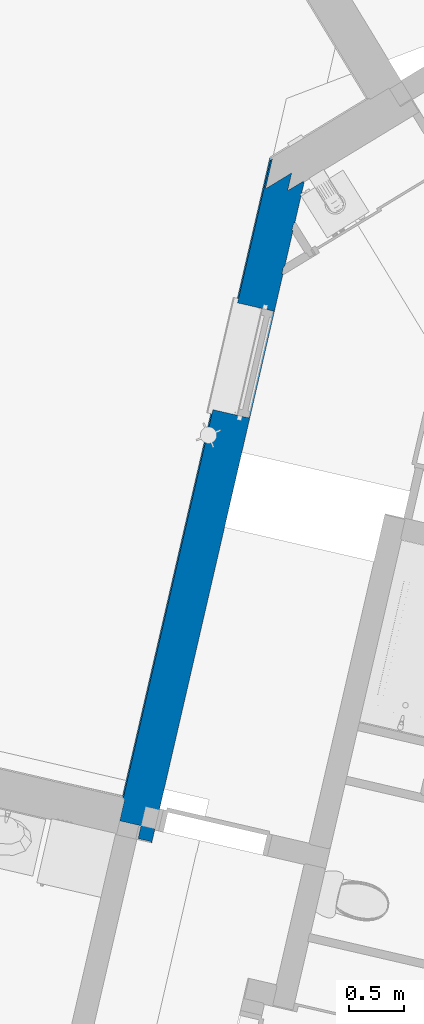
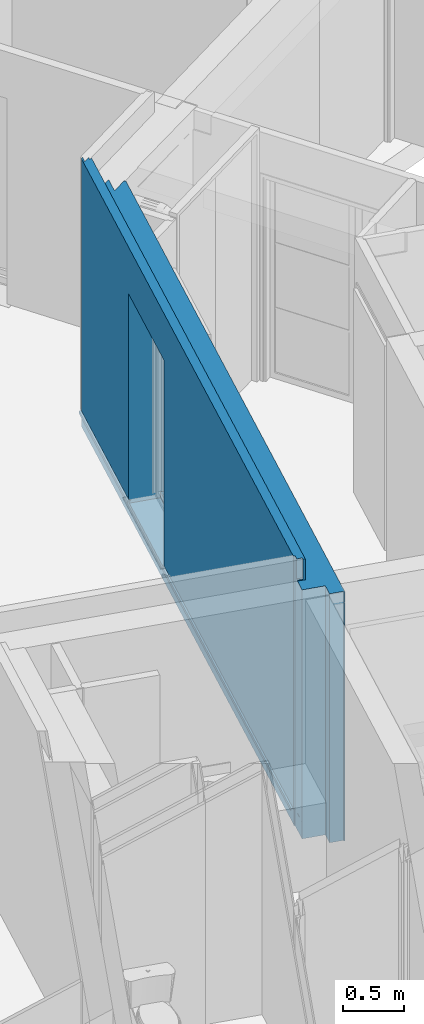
# One storey, part 29 of 119: 1 wall, 1 opening.
"""IFC2X3 building model written with IfcOpenShell, lengths in metres."""

from ifc_helpers import new_model, entity, si_unit, converted_unit, derived_unit, money_unit, direction, frame, origin_with_axes, place, context, subcontext, project, spatial, faceted_brep, material, material_list, type_object, element, save


model = new_model("IFC2X3")

# Units and contexts
model_context = context("Model", 3, precision=1e-05, world=origin_with_axes(), true_north=direction((0.0, 1.0)))
body_context = subcontext(model_context, "Body", "Model", "MODEL_VIEW")
ifc_project = project(units=[si_unit("LENGTHUNIT", "METRE"), si_unit("AREAUNIT", "SQUARE_METRE"), si_unit("VOLUMEUNIT", "CUBIC_METRE"), converted_unit("PLANEANGLEUNIT", "DEGREE", entity("IfcPlaneAngleMeasure", 0.0174532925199), si_unit("PLANEANGLEUNIT", "RADIAN"), dimensions=[0, 0, 0, 0, 0, 0, 0]), si_unit("SOLIDANGLEUNIT", "STERADIAN"), money_unit("EUR"), converted_unit("TIMEUNIT", "Year", entity("IfcTimeMeasure", 31556926.0), si_unit("TIMEUNIT", "SECOND"), dimensions=[0, 0, 1, 0, 0, 0, 0]), si_unit("MASSUNIT", "GRAM", prefix="KILO"), si_unit("THERMODYNAMICTEMPERATUREUNIT", "DEGREE_CELSIUS"), si_unit("LUMINOUSINTENSITYUNIT", "LUMEN"), si_unit("ENERGYUNIT", "JOULE", prefix="MEGA"), derived_unit("THERMALCONDUCTANCEUNIT", [(si_unit("POWERUNIT", "WATT"), 1), (si_unit("LENGTHUNIT", "METRE"), -1), (si_unit("THERMODYNAMICTEMPERATUREUNIT", "KELVIN"), -1)]), derived_unit("SPECIFICHEATCAPACITYUNIT", [(si_unit("ENERGYUNIT", "JOULE"), 1), (si_unit("MASSUNIT", "GRAM", prefix="KILO"), -1), (si_unit("THERMODYNAMICTEMPERATUREUNIT", "KELVIN"), -1)]), derived_unit("MASSDENSITYUNIT", [(si_unit("MASSUNIT", "GRAM", prefix="KILO"), 1), (si_unit("VOLUMEUNIT", "CUBIC_METRE"), -1)])], contexts=[model_context])

# Site, building, storey
site_placement = place(None, origin_with_axes())
site = spatial("IfcSite", under=ifc_project, at=site_placement, Name="Site", CompositionType="ELEMENT")
building_placement = place(site_placement, origin_with_axes())
building = spatial("IfcBuilding", under=site, at=building_placement, Name="Bâtiment", CompositionType="ELEMENT")
storey_placement = place(building_placement, origin_with_axes())
storey = spatial("IfcBuildingStorey", under=building, at=storey_placement, Name="Rez-de-chaussée", CompositionType="ELEMENT", Elevation=0.0)

# Wall, opening
ifc_material_1 = material(Name="Finition int - Plaque de plâtre")
ifc_material_2 = material(Name="Isolation - Polystyrène extrudé")
ifc_material_3 = material(Name="Bloc ELITHERM")
ifc_material_4 = material(Name="Isolation - Polystyrène expansé")
ifc_material_5 = material(Name="Mortier")
ifc_material_6 = material(Name="Béton cellulaire")
ifc_material_7 = material(Name="Etanchéité - Bitume")
ifc_material_8 = material(Name="Finition ext - Crépis")
ifc_material_9 = material(Name="Métal - Aluminium")
ifc_material_list = material_list([ifc_material_1, ifc_material_2, ifc_material_3, ifc_material_4, ifc_material_5, ifc_material_6, ifc_material_7, ifc_material_8, ifc_material_9])
wall_type = type_object("IfcWallType", Name="Mur ALKERN + planelle 21 TERRASSE RDC 356 x 2720", PredefinedType="USERDEFINED")
wall_placement = place(storey_placement, frame((-6.86373191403, 17.6508314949, 0.0), z_axis=(0.0, 0.0, 1.0), x_axis=(-0.22487619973, -0.974387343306, 0.0)))
wall = element("IfcWall", 1, at=wall_placement, inside=storey, type_object=wall_type, material=ifc_material_list, Name="Mue bloc ALKERN isolé", ObjectType="SOLIDWALL", context=body_context, shape_type="Brep", body=[
    faceted_brep([(0.151749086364, 0.359999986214, 0.176532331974), (0.151749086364, 0.359999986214, 0.207793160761), (0.151749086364, 0.359999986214, 2.50955001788), (6.34196474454, 0.359999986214, 2.50955002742), (6.34196474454, 0.359999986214, 2.41), (6.22196471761, 0.359999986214, 2.41), (6.22196471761, 0.359999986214, 2.397), (6.34196474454, 0.359999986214, 2.397), (6.34196474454, 0.359999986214, 0.0), (1.00660062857, 0.359999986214, 0.0), (1.00660062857, 0.359999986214, 0.133633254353), (1.00660062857, 0.359999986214, 0.160000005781), (1.00660062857, 0.359999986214, 0.169414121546), (1.00660062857, 0.359999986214, 0.176532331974), (1.00660062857, 0.359999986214, 0.207793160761), (1.00660062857, 0.359999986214, 2.5), (0.939547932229, 0.359999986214, 2.5), (0.939547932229, 0.359999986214, 0.207793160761), (0.939547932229, 0.359999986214, 0.176532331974), (0.939547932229, 0.359999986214, 0.169414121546), (0.939547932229, 0.359999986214, 0.160000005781), (0.939547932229, 0.359999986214, 0.133633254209), (0.939547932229, 0.359999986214, 0.0), (0.61142351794, 0.359999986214, 0.0), (0.61142351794, 0.359999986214, 0.133633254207), (0.61142351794, 0.359999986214, 0.160000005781), (0.61142351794, 0.359999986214, 0.169414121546), (0.61142351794, 0.359999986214, 0.176532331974), (0.61142351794, 0.359999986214, 0.207793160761), (0.61142351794, 0.359999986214, 2.5), (0.543541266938, 0.359999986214, 2.5), (0.543541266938, 0.359999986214, 0.207793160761), (0.543541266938, 0.359999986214, 0.176532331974), (0.543541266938, 0.359999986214, 0.169414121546), (0.543541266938, 0.359999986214, 0.160000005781), (0.543541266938, 0.359999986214, 0.133633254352), (0.543541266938, 0.359999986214, 0.0), (0.151749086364, 0.359999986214, 0.0), (0.151749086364, 0.359999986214, 0.133633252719), (0.151749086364, 0.359999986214, 0.160000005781), (0.151749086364, 0.359999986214, 0.169414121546), (2.36448848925, 0.359999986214, 2.25), (2.36448848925, 0.359999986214, 2.43), (1.36448848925, 0.359999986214, 2.43), (1.36448848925, 0.359999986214, 2.25), (1.36448848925, 0.359999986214, 0.2), (2.36448848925, 0.359999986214, 0.2), (0.161503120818, 0.350000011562, 0.176532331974), (0.161503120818, 0.350000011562, 0.207793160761), (0.161503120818, 0.350000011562, 2.50955001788), (6.34196474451, 0.350000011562, 2.50955002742), (6.34196474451, 0.350000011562, 2.41), (6.22196471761, 0.350000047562, 2.41), (6.22196471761, 0.350000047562, 2.397), (6.34196474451, 0.350000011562, 2.397), (6.33196465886, 0.350000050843, 2.397), (6.34196474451, 0.350000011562, 0.0), (1.01635466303, 0.350000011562, 0.0), (1.01635466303, 0.350000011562, 0.13363325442), (1.01635466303, 0.350000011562, 0.160000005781), (1.01635466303, 0.350000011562, 0.169414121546), (1.01635466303, 0.350000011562, 0.176532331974), (1.01635466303, 0.350000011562, 0.207793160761), (1.01635466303, 0.350000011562, 2.5), (0.949301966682, 0.350000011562, 2.5), (0.949301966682, 0.350000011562, 0.207793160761), (0.949301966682, 0.350000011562, 0.176532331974), (0.949301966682, 0.350000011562, 0.169414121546), (0.949301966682, 0.350000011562, 0.160000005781), (0.949301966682, 0.350000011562, 0.13363325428), (0.949301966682, 0.350000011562, 0.0), (0.601423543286, 0.350000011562, 0.0), (0.601423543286, 0.350000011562, 0.133633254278), (0.601423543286, 0.350000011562, 0.160000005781), (0.601423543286, 0.350000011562, 0.169414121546), (0.601423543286, 0.350000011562, 0.176532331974), (0.601423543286, 0.350000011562, 0.207793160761), (0.601423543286, 0.350000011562, 2.5), (0.533541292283, 0.350000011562, 2.5), (0.533541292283, 0.350000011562, 0.207793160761), (0.533541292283, 0.350000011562, 0.176532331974), (0.533541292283, 0.350000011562, 0.169414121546), (0.533541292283, 0.350000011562, 0.160000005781), (0.533541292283, 0.350000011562, 0.133633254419), (0.533541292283, 0.350000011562, 0.0), (0.161503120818, 0.350000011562, 0.0), (0.161503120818, 0.350000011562, 0.133633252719), (0.161503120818, 0.350000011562, 0.160000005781), (0.161503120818, 0.350000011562, 0.169414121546), (2.36448848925, 0.350000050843, 2.25), (2.36448848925, 0.350000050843, 2.43), (1.36448848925, 0.350000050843, 2.43), (1.36448848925, 0.350000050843, 2.25), (1.36448848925, 0.350000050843, 0.2), (2.36448848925, 0.350000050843, 0.2)], [[[0, 1, 2, 3, 4, 5, 6, 7, 8, 9, 10, 11, 12, 13, 14, 15, 16, 17, 18, 19, 20, 21, 22, 23, 24, 25, 26, 27, 28, 29, 30, 31, 32, 33, 34, 35, 36, 37, 38, 39, 40], [41, 42, 43, 44, 45, 46]], [[47, 48, 1, 0]], [[48, 49, 2, 1]], [[3, 2, 49, 50]], [[3, 50, 51, 4]], [[52, 5, 4, 51]], [[52, 53, 6, 5]], [[54, 7, 6, 53, 55]], [[56, 8, 7, 54]], [[56, 57, 9, 8]], [[57, 58, 10, 9]], [[10, 58, 59, 11]], [[60, 12, 11, 59]], [[60, 61, 13, 12]], [[14, 13, 61, 62]], [[14, 62, 63, 15]], [[15, 63, 64, 16]], [[16, 64, 65, 17]], [[65, 66, 18, 17]], [[19, 18, 66, 67]], [[19, 67, 68, 20]], [[69, 21, 20, 68]], [[22, 21, 69, 70]], [[23, 22, 70, 71]], [[23, 71, 72, 24]], [[25, 24, 72, 73]], [[73, 74, 26, 25]], [[26, 74, 75, 27]], [[76, 28, 27, 75]], [[29, 28, 76, 77]], [[30, 29, 77, 78]], [[31, 30, 78, 79]], [[31, 79, 80, 32]], [[81, 33, 32, 80]], [[34, 33, 81, 82]], [[82, 83, 35, 34]], [[84, 36, 35, 83]], [[85, 37, 36, 84]], [[38, 37, 85, 86]], [[87, 39, 38, 86]], [[39, 87, 88, 40]], [[0, 40, 88, 47]], [[42, 41, 89, 90]], [[43, 42, 90, 91]], [[44, 43, 91, 92]], [[44, 92, 93, 45]], [[45, 93, 94, 46]], [[89, 41, 46, 94]], [[57, 56, 54, 55, 53, 52, 51, 50, 49, 48, 47, 88, 87, 86, 85, 84, 83, 82, 81, 80, 79, 78, 77, 76, 75, 74, 73, 72, 71, 70, 69, 68, 67, 66, 65, 64, 63, 62, 61, 60, 59, 58], [90, 89, 94, 93, 92, 91]]]),
    faceted_brep([(1.36448848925, 0.248560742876, 0.2), (1.36448848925, 0.289560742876, 0.2), (1.36448848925, 0.350000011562, 0.2), (1.36448848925, 0.350000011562, 2.25), (1.36448848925, 0.248560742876, 2.25), (1.36448848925, 0.22999997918, 0.2), (1.36448848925, 0.22999997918, 0.14), (1.36448848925, 0.289560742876, 0.14), (2.36448848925, 0.289560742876, 0.2), (2.36448848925, 0.350000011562, 0.2), (6.33196475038, 0.350000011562, 0.207793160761), (6.33196475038, 0.350000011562, 0.176532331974), (6.33196475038, 0.350000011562, 0.169414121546), (6.33196475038, 0.350000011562, 0.160000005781), (6.33196475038, 0.350000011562, 0.133633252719), (6.33196475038, 0.350000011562, 0.0), (0.147533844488, 0.350000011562, 0.0), (0.147533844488, 0.350000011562, 0.133633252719), (0.147533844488, 0.350000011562, 0.160000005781), (0.147533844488, 0.350000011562, 0.169414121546), (0.147533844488, 0.350000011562, 0.176532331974), (0.147533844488, 0.350000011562, 0.207793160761), (0.147533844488, 0.350000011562, 2.50955001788), (6.33196475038, 0.350000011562, 2.50955001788), (2.36448848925, 0.350000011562, 2.25), (2.36448848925, 0.350000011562, 2.43), (1.36448848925, 0.350000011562, 2.43), (1.36448848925, 0.22999997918, 2.43), (1.36448848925, 0.22999997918, 2.25), (6.33196474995, 0.22999997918, 2.50955001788), (0.264582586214, 0.22999997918, 2.50955001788), (0.264582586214, 0.22999997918, 0.207793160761), (0.264582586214, 0.22999997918, 0.176532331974), (0.264582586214, 0.22999997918, 0.169414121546), (0.264582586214, 0.22999997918, 0.160000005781), (0.264582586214, 0.22999997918, 0.133633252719), (0.264582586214, 0.22999997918, 0.0), (6.33196474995, 0.22999997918, 0.0), (6.33196474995, 0.22999997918, 0.133633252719), (6.33196474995, 0.22999997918, 0.160000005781), (6.33196474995, 0.22999997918, 0.169414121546), (6.33196474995, 0.22999997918, 0.176532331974), (6.33196474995, 0.22999997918, 0.207793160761), (2.36448848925, 0.22999997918, 2.43), (2.36448848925, 0.22999997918, 2.25), (2.36448848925, 0.22999997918, 0.2), (2.36448848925, 0.22999997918, 0.14), (2.36448848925, 0.289560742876, 0.14), (2.36448848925, 0.248560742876, 0.2), (2.36448848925, 0.248560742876, 2.25)], [[[0, 1, 2, 3, 4]], [[1, 0, 5, 6, 7]], [[1, 8, 9, 2]], [[10, 11, 12, 13, 14, 15, 16, 17, 18, 19, 20, 21, 22, 23], [3, 2, 9, 24, 25, 26]], [[27, 28, 4, 3, 26]], [[5, 0, 4, 28]], [[29, 30, 31, 32, 33, 34, 35, 36, 37, 38, 39, 40, 41, 42], [6, 5, 28, 27, 43, 44, 45, 46]], [[6, 46, 47, 7]], [[8, 1, 7, 47]], [[8, 48, 49, 24, 9]], [[11, 10, 42, 41]], [[12, 11, 41, 40]], [[39, 13, 12, 40]], [[38, 14, 13, 39]], [[38, 37, 15, 14]], [[16, 15, 37, 36]], [[35, 17, 16, 36]], [[18, 17, 35, 34]], [[19, 18, 34, 33]], [[19, 33, 32, 20]], [[20, 32, 31, 21]], [[21, 31, 30, 22]], [[30, 29, 23, 22]], [[42, 10, 23, 29]], [[49, 44, 43, 25, 24]], [[25, 43, 27, 26]], [[48, 45, 44, 49]], [[48, 8, 47, 46, 45]]]),
    faceted_brep([(1.36448848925, 0.0310453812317, 0.2), (1.36448848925, 0.229999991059, 0.2), (1.36448848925, 0.229999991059, 2.25), (1.36448848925, 0.218560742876, 2.25), (1.36448848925, 0.03, 2.25), (1.36448848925, 0.03, 0.207793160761), (1.36448848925, 0.0310453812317, 0.207793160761), (1.36448848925, 0.229999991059, 0.14), (1.36448848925, 0.0310453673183, 0.169727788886), (1.36448848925, 0.0300000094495, 0.169414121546), (1.36448848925, 0.0300000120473, 0.160000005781), (1.36448848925, 0.03, 0.14), (6.21196471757, 0.229999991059, 0.133633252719), (6.21196471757, 0.229999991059, 0.0), (0.0969508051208, 0.229999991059, 0.0), (0.0969508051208, 0.229999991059, 0.133633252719), (0.0969508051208, 0.229999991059, 0.160000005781), (0.0969508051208, 0.229999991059, 0.169414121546), (0.0969508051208, 0.229999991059, 0.176532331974), (0.0969508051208, 0.229999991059, 0.207793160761), (0.0969508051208, 0.229999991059, 2.50955001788), (6.21196471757, 0.229999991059, 2.50955001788), (6.21196471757, 0.229999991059, 0.207793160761), (6.21196471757, 0.229999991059, 0.176532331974), (6.21196471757, 0.229999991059, 0.169414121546), (6.21196471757, 0.229999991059, 0.160000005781), (2.36448848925, 0.229999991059, 0.14), (2.36448848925, 0.229999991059, 0.2), (2.36448848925, 0.229999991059, 2.25), (2.36448848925, 0.229999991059, 2.43), (1.36448848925, 0.229999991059, 2.43), (1.36448848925, 0.218560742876, 2.43), (2.36448848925, 0.218560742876, 2.25), (2.36448848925, 0.03, 2.25), (6.21196471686, 0.03, 0.207793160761), (6.21196471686, 0.03, 2.50955001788), (0.292031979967, 0.03, 2.50955001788), (0.292031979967, 0.03, 0.207793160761), (2.36448848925, 0.03, 0.207793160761), (0.291012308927, 0.0310453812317, 0.207793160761), (0.291012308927, 0.0310453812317, 0.176532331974), (0.291012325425, 0.0310453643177, 0.169727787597), (0.292031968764, 0.0300000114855, 0.169414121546), (0.292031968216, 0.0300000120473, 0.160000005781), (0.292031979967, 0.03, 0.133633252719), (0.292031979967, 0.03, 0.0), (6.21196471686, 0.03, 0.0), (6.21196471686, 0.03, 0.133633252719), (6.21196471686, 0.0300000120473, 0.160000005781), (2.36448848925, 0.0300000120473, 0.160000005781), (2.36448848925, 0.03, 0.14), (0.225704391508, 0.0979999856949, 2.50955001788), (6.2119647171, 0.0979999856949, 2.50955001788), (6.21196471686, 0.0310453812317, 0.207793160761), (6.21196471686, 0.0310453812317, 0.176532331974), (6.21196471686, 0.0310453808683, 0.169727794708), (6.21196471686, 0.0300000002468, 0.169414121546), (2.36448848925, 0.0310453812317, 0.2), (2.36448848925, 0.030000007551, 0.169414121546), (2.36448848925, 0.0310453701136, 0.169727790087), (2.36448848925, 0.0310453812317, 0.207793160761), (2.36448848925, 0.218560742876, 2.43)], [[[0, 1, 2, 3, 4, 5, 6]], [[7, 1, 0, 8, 9, 10, 11]], [[12, 13, 14, 15, 16, 17, 18, 19, 20, 21, 22, 23, 24, 25], [26, 27, 28, 29, 30, 2, 1, 7]], [[30, 31, 3, 2]], [[32, 33, 4, 3]], [[34, 35, 36, 37, 5, 4, 33, 38]], [[37, 39, 6, 5]], [[8, 0, 6, 39, 40, 41]], [[9, 8, 41, 42]], [[10, 9, 42, 43]], [[11, 10, 43, 44, 45, 46, 47, 48, 49, 50]], [[26, 7, 11, 50]], [[47, 46, 13, 12]], [[14, 13, 46, 45]], [[45, 44, 15, 14]], [[43, 16, 15, 44]], [[42, 17, 16, 43]], [[40, 18, 17, 42, 41]], [[19, 18, 40, 39]], [[20, 19, 39, 37, 36, 51]], [[51, 52, 21, 20]], [[35, 34, 53, 22, 21, 52]], [[23, 22, 53, 54]], [[55, 56, 24, 23, 54]], [[48, 25, 24, 56]], [[47, 12, 25, 48]], [[57, 27, 26, 50, 49, 58, 59]], [[27, 57, 60, 38, 33, 32, 28]], [[28, 32, 61, 29]], [[29, 61, 31, 30]], [[3, 31, 61, 32]], [[36, 35, 52, 51]], [[53, 34, 38, 60]], [[58, 49, 48, 56]], [[57, 59, 55, 54, 53, 60]], [[59, 58, 56, 55]]]),
    faceted_brep([(6.07996476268, 0.0980000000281, 2.51999998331), (0.0413094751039, 0.0980000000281, 2.51999999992), (0.0413094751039, 0.0980000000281, 2.72), (6.07996476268, 0.0980000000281, 2.72), (6.07996476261, 0.0780000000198, 2.51999998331), (0.0608175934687, 0.0780000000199, 2.51999999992), (0.0608175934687, 0.0780000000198, 2.72), (6.07996476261, 0.0780000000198, 2.72)], [[[0, 1, 2, 3]], [[4, 5, 1, 0]], [[5, 6, 2, 1]], [[3, 2, 6, 7]], [[7, 4, 0, 3]], [[7, 6, 5, 4]]]),
    faceted_brep([(0.041309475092, 0.098, 2.50955), (0.041309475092, 0.098, 2.52), (6.07996476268, 0.098, 2.51999998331), (6.07996472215, 0.098, 2.50955002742), (0.107637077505, 0.03, 2.52), (0.107637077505, 0.03, 2.50955), (6.07996476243, 0.03, 2.51999998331), (6.0799647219, 0.03, 2.50955002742)], [[[0, 1, 2, 3]], [[4, 1, 0, 5]], [[1, 4, 6, 2]], [[7, 3, 2, 6]], [[5, 0, 3, 7]], [[4, 5, 7, 6]]]),
    faceted_brep([(6.0599647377, 0.03, 2.72), (6.05996473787, 0.0780000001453, 2.72), (0.0328789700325, 0.0780000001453, 2.72), (0.0796984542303, 0.03, 2.72), (6.05996473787, 0.0780000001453, 2.51999999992), (6.0599647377, 0.03, 2.51999999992), (0.0328789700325, 0.0780000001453, 2.51999999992), (0.0796984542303, 0.03, 2.51999999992)], [[[0, 1, 2, 3]], [[4, 1, 0, 5]], [[1, 4, 6, 2]], [[3, 2, 6, 7]], [[5, 0, 3, 7]], [[4, 5, 7, 6]]]),
    faceted_brep([(1.36448848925, 0.02, 0.160000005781), (1.36448848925, 0.0300000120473, 0.160000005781), (0.0126457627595, 0.0300000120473, 0.160000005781), (0.0223998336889, 0.02, 0.160000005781), (1.36448848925, 0.0300000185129, 0.14), (1.36448848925, 0.02, 0.14), (2.36448848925, 0.0300000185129, 0.14), (2.36448848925, 0.0300000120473, 0.160000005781), (6.01196474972, 0.0300000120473, 0.160000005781), (6.01196474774, 0.0300000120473, 0.133633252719), (6.01196473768, 0.0300000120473, 0.0), (5.99696474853, 0.0300000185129, 0.0), (5.99696474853, 0.0300000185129, 0.01), (0.0126457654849, 0.0300000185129, 0.01), (0.0126457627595, 0.0300000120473, 0.133633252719), (0.0223998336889, 0.02, 0.133633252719), (0.0223998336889, 0.02, 0.01), (5.99701909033, 0.02, 0.01), (5.99701909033, 0.02, 0.0), (6.01196473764, 0.02, 0.0), (6.0119647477, 0.02, 0.133633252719), (6.01196474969, 0.02, 0.160000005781), (2.36448848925, 0.02, 0.160000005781), (2.36448848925, 0.02, 0.14)], [[[0, 1, 2, 3]], [[4, 1, 0, 5]], [[6, 7, 8, 9, 10, 11, 12, 13, 14, 2, 1, 4]], [[3, 2, 14, 15]], [[5, 0, 3, 15, 16, 17, 18, 19, 20, 21, 22, 23]], [[6, 4, 5, 23]], [[22, 7, 6, 23]], [[7, 22, 21, 8]], [[9, 8, 21, 20]], [[9, 20, 19, 10]], [[11, 10, 19, 18]], [[11, 18, 17, 12]], [[13, 12, 17, 16]], [[16, 15, 14, 13]]]),
    faceted_brep([(1.36448848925, 0.0300000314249, 0.2), (1.36448848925, 0.0300000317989, 0.176532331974), (0.0126457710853, 0.0300000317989, 0.176532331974), (0.0126457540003, 0.0299999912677, 2.72), (6.01196473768, 0.0299999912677, 2.72), (6.01196473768, 0.0300000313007, 0.207793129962), (6.01196476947, 0.0300000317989, 0.176532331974), (2.36448848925, 0.0300000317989, 0.176532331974), (2.36448848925, 0.0300000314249, 0.2), (2.36448848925, 0.0299999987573, 2.25), (1.36448848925, 0.0299999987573, 2.25), (1.36448848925, 0.0150000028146, 0.2), (1.36448848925, 0.0150000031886, 0.176532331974), (1.36448848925, 0.0149999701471, 2.25), (0.0272768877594, 0.0150000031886, 0.176532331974), (0.0272768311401, 0.0150000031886, 2.72), (6.01196473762, 0.0150000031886, 2.72), (6.01196473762, 0.0150000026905, 0.207793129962), (6.01196476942, 0.0150000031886, 0.176532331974), (2.36448848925, 0.0150000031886, 0.176532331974), (2.36448848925, 0.0150000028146, 0.2), (2.36448848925, 0.0149999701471, 2.25)], [[[0, 1, 2, 3, 4, 5, 6, 7, 8, 9, 10]], [[11, 12, 1, 0, 10, 13]], [[1, 12, 14, 2]], [[3, 2, 14, 15]], [[4, 3, 15, 16]], [[16, 17, 5, 4]], [[17, 18, 6, 5]], [[19, 7, 6, 18]], [[8, 7, 19, 20, 21, 9]], [[9, 21, 13, 10]], [[12, 11, 13, 21, 20, 19, 18, 17, 16, 15, 14]]]),
    faceted_brep([(1.36448848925, 0.0300000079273, 0.2), (1.36448848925, 0.0310453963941, 0.2), (1.36448848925, 0.0310453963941, 0.207793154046), (1.36448848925, 0.03, 0.20779315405), (1.36448848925, 0.0310453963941, 0.169727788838), (1.36448848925, 0.0300000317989, 0.176532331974), (1.36448848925, 0.03, 0.170774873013), (1.36448848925, 0.00356073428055, 0.162931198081), (1.36448848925, 0.0035607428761, 0.14), (1.36448848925, 0.00479482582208, 0.14), (1.36448848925, 0.00479482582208, 0.161852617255), (1.36448848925, 0.0299999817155, 0.169414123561), (0.0130864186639, 0.0310453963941, 0.169727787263), (0.0130864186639, 0.0310453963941, 0.176532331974), (0.0130864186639, 0.0310453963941, 0.207793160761), (0.0141061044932, 0.03, 0.207793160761), (0.0141060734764, 0.0300000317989, 0.176532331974), (0.0141061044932, 0.03, 0.170774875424), (0.0175487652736, 0.0264705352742, 0.169727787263), (0.0171196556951, 0.0254132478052, 0.169414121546), (0.00824725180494, 0.0035607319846, 0.162931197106), (0.00322487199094, 0.0035607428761, 0.161852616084), (0.00322487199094, 0.0035607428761, 0.160000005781), (0.00322487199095, 0.0035607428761, 0.133633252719), (5.98675957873, 0.0035607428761, 0.133633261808), (5.98675957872, 0.0035607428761, 0.160000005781), (5.98675957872, 0.0035607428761, 0.161852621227), (5.99035487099, 0.00356074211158, 0.162931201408), (2.36448848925, 0.00356073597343, 0.1629311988), (2.36448848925, 0.0035607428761, 0.14), (2.36448848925, 0.00479482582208, 0.14), (2.36448848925, 0.00479482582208, 0.161852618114), (5.98675957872, 0.00479482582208, 0.161852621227), (5.98675957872, 0.00479482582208, 0.160000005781), (5.98675957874, 0.00479482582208, 0.133633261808), (0.00202114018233, 0.00479482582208, 0.133633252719), (0.00202114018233, 0.00479482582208, 0.160000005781), (0.00202114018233, 0.00479482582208, 0.161852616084), (0.0126457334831, 0.029999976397, 0.169414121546), (6.01196473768, 0.03, 0.169414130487), (6.01196473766, 0.0254132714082, 0.169414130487), (2.36448848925, 0.03, 0.170774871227), (6.01301011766, 0.0264705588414, 0.169727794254), (6.01301011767, 0.03, 0.170774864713), (2.36448848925, 0.0300000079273, 0.2), (2.36448848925, 0.0310453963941, 0.2), (2.36448848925, 0.0310453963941, 0.169727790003), (2.36448848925, 0.0299999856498, 0.169414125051), (2.36448848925, 0.0300000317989, 0.176532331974), (6.01301011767, 0.0310453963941, 0.169727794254), (6.01301011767, 0.0310453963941, 0.176532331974), (6.01301011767, 0.0300000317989, 0.176532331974), (2.36448848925, 0.03, 0.20779314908), (2.36448848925, 0.0310453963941, 0.207793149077), (6.01301011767, 0.0310453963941, 0.207793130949), (6.01301011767, 0.03, 0.207793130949)], [[[0, 1, 2, 3]], [[4, 1, 0, 5, 6, 7, 8, 9, 10, 11]], [[1, 4, 12, 13, 14, 2]], [[2, 14, 15, 3]], [[5, 0, 3, 15, 16]], [[6, 5, 16, 17]], [[7, 6, 17, 18, 19, 20]], [[8, 7, 20, 21, 22, 23, 24, 25, 26, 27, 28, 29]], [[30, 9, 8, 29]], [[30, 31, 32, 33, 34, 35, 36, 37, 10, 9]], [[11, 10, 37, 38]], [[4, 11, 38, 12]], [[13, 12, 18, 17, 16]], [[16, 15, 14, 13]], [[19, 18, 12, 38]], [[38, 37, 21, 20, 19]], [[36, 22, 21, 37]], [[36, 35, 23, 22]], [[34, 24, 23, 35]], [[25, 24, 34, 33]], [[32, 26, 25, 33]], [[32, 39, 40, 27, 26]], [[41, 28, 27, 40, 42, 43]], [[44, 45, 46, 47, 31, 30, 29, 28, 41, 48]], [[31, 47, 39, 32]], [[49, 42, 40, 39]], [[49, 50, 51, 43, 42]], [[48, 41, 43, 51]], [[45, 44, 52, 53]], [[46, 45, 53, 54, 50, 49]], [[47, 46, 49, 39]], [[44, 48, 51, 55, 52]], [[55, 51, 50, 54]], [[52, 55, 54, 53]]]),
])
opening_placement = place(wall_placement, frame((1.86448848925, 0.0, 0.2), z_axis=(0.0, 0.0, 1.0), x_axis=(1.0, 0.0, 0.0)))
element("IfcOpeningElement", 2, at=opening_placement, cuts=wall, Name="MEN 10", context=body_context, shape_type="Brep", body=[
    faceted_brep([(0.5, 0.248560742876, 0.0), (-0.5, 0.248560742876, 0.0), (-0.5, 0.849999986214, 0.0), (0.5, 0.849999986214, 0.0), (0.5, 0.248560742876, 2.05), (-0.5, 0.248560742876, 2.05), (-0.5, 0.849999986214, 2.05), (0.5, 0.849999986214, 2.05)], [[[0, 1, 2, 3]], [[0, 4, 5, 1]], [[1, 5, 6, 2]], [[3, 2, 6, 7]], [[4, 0, 3, 7]], [[5, 4, 7, 6]]]),
    faceted_brep([(0.5, 0.248560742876, 0.0), (0.5, 0.248560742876, 2.05), (0.5, -0.352878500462, 2.05), (0.5, -0.352878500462, 0.0), (-0.5, 0.248560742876, 0.0), (-0.5, 0.248560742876, 2.05), (-0.5, -0.352878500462, 2.05), (-0.5, -0.352878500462, 0.0)], [[[0, 1, 2, 3]], [[0, 4, 5, 1]], [[1, 5, 6, 2]], [[3, 2, 6, 7]], [[4, 0, 3, 7]], [[5, 4, 7, 6]]]),
    faceted_brep([(0.5, 0.248560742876, 0.0), (0.5, 0.248560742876, 2.05), (0.5, -0.352878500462, 2.05), (0.5, -0.352878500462, 0.0), (-0.5, 0.248560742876, 0.0), (-0.5, 0.248560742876, 2.05), (-0.5, -0.352878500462, 2.05), (-0.5, -0.352878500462, 0.0)], [[[0, 1, 2, 3]], [[0, 4, 5, 1]], [[1, 5, 6, 2]], [[3, 2, 6, 7]], [[4, 0, 3, 7]], [[5, 4, 7, 6]]]),
    faceted_brep([(0.5, 0.218560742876, 2.05), (-0.5, 0.218560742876, 2.05), (-0.5, 0.819999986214, 2.05), (0.5, 0.819999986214, 2.05), (0.5, 0.218560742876, 2.23), (-0.5, 0.218560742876, 2.23), (-0.5, 0.819999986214, 2.23), (0.5, 0.819999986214, 2.23)], [[[0, 1, 2, 3]], [[0, 4, 5, 1]], [[1, 5, 6, 2]], [[3, 2, 6, 7]], [[4, 0, 3, 7]], [[5, 4, 7, 6]]]),
    faceted_brep([(0.5, 0.289560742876, 0.0), (-0.5, 0.289560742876, 0.0), (-0.5, -0.311878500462, 0.0), (0.5, -0.311878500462, 0.0), (0.5, 0.289560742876, -0.06), (-0.5, 0.289560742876, -0.06), (-0.5, -0.311878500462, -0.06), (0.5, -0.311878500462, -0.06)], [[[0, 1, 2, 3]], [[0, 4, 5, 1]], [[1, 5, 6, 2]], [[3, 2, 6, 7]], [[4, 0, 3, 7]], [[5, 4, 7, 6]]]),
])

save(model, "model.ifc")
